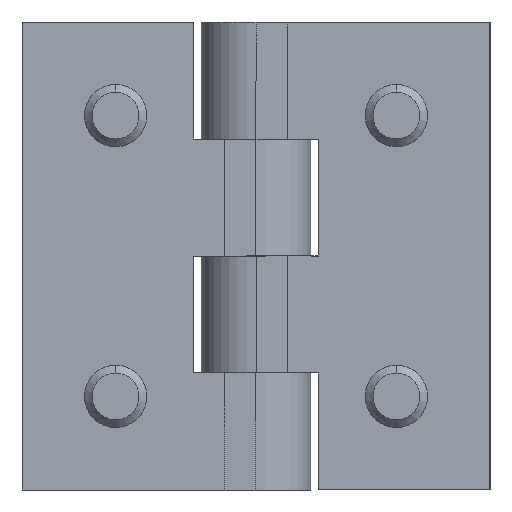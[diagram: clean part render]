
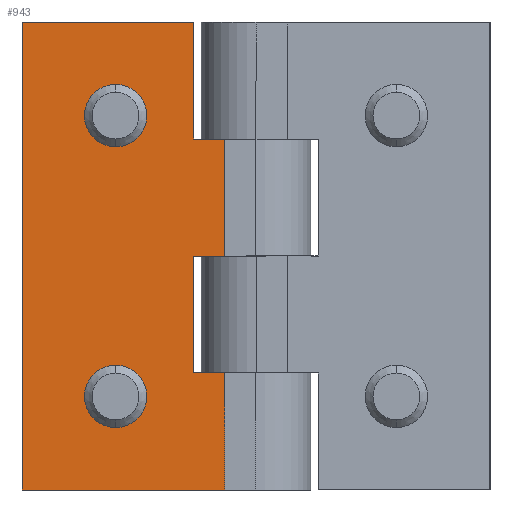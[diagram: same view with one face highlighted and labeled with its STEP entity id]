
A CAD part, front view. The second image highlights one B-rep face of the part: STEP entity #943.
In plain terms, the highlighted planar face has unit normal (0, -1, 0).
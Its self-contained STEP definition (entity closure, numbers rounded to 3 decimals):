
#2 = VERTEX_POINT ( 'NONE', #2869 ) ;
#23 = DIRECTION ( 'NONE',  ( -1., 0., 0. ) ) ;
#29 = AXIS2_PLACEMENT_3D ( 'NONE', #1249, #2211, #1468 ) ;
#76 = VERTEX_POINT ( 'NONE', #1429 ) ;
#95 = EDGE_CURVE ( 'NONE', #2, #2701, #1935, .T. ) ;
#100 = VERTEX_POINT ( 'NONE', #1412 ) ;
#129 = VECTOR ( 'NONE', #23, 1000. ) ;
#136 = FACE_BOUND ( 'NONE', #1048, .T. ) ;
#196 = EDGE_CURVE ( 'NONE', #1564, #100, #292, .T. ) ;
#203 = ORIENTED_EDGE ( 'NONE', *, *, #196, .F. ) ;
#208 = CARTESIAN_POINT ( 'NONE',  ( 7., -8., 0. ) ) ;
#238 = VERTEX_POINT ( 'NONE', #2917 ) ;
#292 = LINE ( 'NONE', #337, #1472 ) ;
#307 = ORIENTED_EDGE ( 'NONE', *, *, #2750, .F. ) ;
#337 = CARTESIAN_POINT ( 'NONE',  ( -8., -8., 30. ) ) ;
#343 = CIRCLE ( 'NONE', #1186, 4. ) ;
#351 = VERTEX_POINT ( 'NONE', #1406 ) ;
#361 = EDGE_LOOP ( 'NONE', ( #2294, #1477, #1380, #1223, #1999, #2818, #1645, #203, #927, #642 ) ) ;
#398 = CARTESIAN_POINT ( 'NONE',  ( 7., -8., -15. ) ) ;
#404 = CARTESIAN_POINT ( 'NONE',  ( -14., -8., 18. ) ) ;
#465 = CARTESIAN_POINT ( 'NONE',  ( -30., -8., 30. ) ) ;
#489 = AXIS2_PLACEMENT_3D ( 'NONE', #2450, #1649, #945 ) ;
#539 = CARTESIAN_POINT ( 'NONE',  ( -30., -8., -15. ) ) ;
#642 = ORIENTED_EDGE ( 'NONE', *, *, #2088, .F. ) ;
#659 = EDGE_CURVE ( 'NONE', #1741, #351, #1811, .T. ) ;
#703 = EDGE_CURVE ( 'NONE', #100, #1132, #1562, .T. ) ;
#717 = DIRECTION ( 'NONE',  ( 0., -1., 0. ) ) ;
#769 = VECTOR ( 'NONE', #1344, 1000. ) ;
#846 = VERTEX_POINT ( 'NONE', #982 ) ;
#852 = LINE ( 'NONE', #2307, #2283 ) ;
#891 = CARTESIAN_POINT ( 'NONE',  ( -18., -8., -18. ) ) ;
#927 = ORIENTED_EDGE ( 'NONE', *, *, #1287, .T. ) ;
#943 = ADVANCED_FACE ( 'NONE', ( #136, #2793, #2731 ), #1072, .T. ) ;
#945 = DIRECTION ( 'NONE',  ( 1., 0., 0. ) ) ;
#954 = CARTESIAN_POINT ( 'NONE',  ( -18., -8., -18. ) ) ;
#972 = CIRCLE ( 'NONE', #2737, 4. ) ;
#982 = CARTESIAN_POINT ( 'NONE',  ( -22., -8., 18. ) ) ;
#1011 = CARTESIAN_POINT ( 'NONE',  ( -30., -8., -30. ) ) ;
#1035 = VECTOR ( 'NONE', #1352, 1000. ) ;
#1048 = EDGE_LOOP ( 'NONE', ( #2537, #2882 ) ) ;
#1065 = VECTOR ( 'NONE', #2152, 1000. ) ;
#1072 = PLANE ( 'NONE',  #1321 ) ;
#1114 = EDGE_CURVE ( 'NONE', #238, #1408, #972, .T. ) ;
#1117 = DIRECTION ( 'NONE',  ( 1., 0., 0. ) ) ;
#1132 = VERTEX_POINT ( 'NONE', #2830 ) ;
#1186 = AXIS2_PLACEMENT_3D ( 'NONE', #954, #2098, #3060 ) ;
#1223 = ORIENTED_EDGE ( 'NONE', *, *, #2520, .T. ) ;
#1225 = VECTOR ( 'NONE', #2662, 1000. ) ;
#1249 = CARTESIAN_POINT ( 'NONE',  ( -18., -8., 18. ) ) ;
#1283 = CARTESIAN_POINT ( 'NONE',  ( 7., -8., -15. ) ) ;
#1287 = EDGE_CURVE ( 'NONE', #1564, #2692, #2694, .T. ) ;
#1321 = AXIS2_PLACEMENT_3D ( 'NONE', #398, #2242, #2977 ) ;
#1344 = DIRECTION ( 'NONE',  ( 0., 0., -1. ) ) ;
#1351 = EDGE_LOOP ( 'NONE', ( #307, #2816 ) ) ;
#1352 = DIRECTION ( 'NONE',  ( 1., 0., 0. ) ) ;
#1380 = ORIENTED_EDGE ( 'NONE', *, *, #659, .F. ) ;
#1406 = CARTESIAN_POINT ( 'NONE',  ( -8., -8., -15. ) ) ;
#1408 = VERTEX_POINT ( 'NONE', #1583 ) ;
#1412 = CARTESIAN_POINT ( 'NONE',  ( -8., -8., 30. ) ) ;
#1429 = CARTESIAN_POINT ( 'NONE',  ( -4., -8., 0. ) ) ;
#1468 = DIRECTION ( 'NONE',  ( 1., 0., 0. ) ) ;
#1472 = VECTOR ( 'NONE', #2724, 1000. ) ;
#1477 = ORIENTED_EDGE ( 'NONE', *, *, #1823, .T. ) ;
#1562 = LINE ( 'NONE', #3056, #1922 ) ;
#1564 = VERTEX_POINT ( 'NONE', #465 ) ;
#1583 = CARTESIAN_POINT ( 'NONE',  ( -22., -8., -18. ) ) ;
#1645 = ORIENTED_EDGE ( 'NONE', *, *, #703, .F. ) ;
#1649 = DIRECTION ( 'NONE',  ( 0., -1., 0. ) ) ;
#1741 = VERTEX_POINT ( 'NONE', #1926 ) ;
#1784 = DIRECTION ( 'NONE',  ( -1., 0., 0. ) ) ;
#1801 = EDGE_CURVE ( 'NONE', #76, #2721, #852, .T. ) ;
#1811 = LINE ( 'NONE', #2797, #769 ) ;
#1823 = EDGE_CURVE ( 'NONE', #2701, #351, #2273, .T. ) ;
#1829 = VECTOR ( 'NONE', #1784, 1000. ) ;
#1839 = LINE ( 'NONE', #3019, #2844 ) ;
#1922 = VECTOR ( 'NONE', #2569, 1000. ) ;
#1926 = CARTESIAN_POINT ( 'NONE',  ( -8., -8., 0. ) ) ;
#1935 = LINE ( 'NONE', #2373, #1065 ) ;
#1999 = ORIENTED_EDGE ( 'NONE', *, *, #1801, .T. ) ;
#2088 = EDGE_CURVE ( 'NONE', #2, #2692, #2617, .T. ) ;
#2098 = DIRECTION ( 'NONE',  ( 0., -1., 0. ) ) ;
#2152 = DIRECTION ( 'NONE',  ( 0., 0., 1. ) ) ;
#2171 = EDGE_CURVE ( 'NONE', #2772, #846, #2898, .T. ) ;
#2211 = DIRECTION ( 'NONE',  ( 0., -1., 0. ) ) ;
#2242 = DIRECTION ( 'NONE',  ( 0., -1., 0. ) ) ;
#2273 = LINE ( 'NONE', #1283, #1829 ) ;
#2283 = VECTOR ( 'NONE', #2515, 1000. ) ;
#2294 = ORIENTED_EDGE ( 'NONE', *, *, #95, .T. ) ;
#2295 = CIRCLE ( 'NONE', #489, 4. ) ;
#2307 = CARTESIAN_POINT ( 'NONE',  ( -4., -8., -30.001 ) ) ;
#2373 = CARTESIAN_POINT ( 'NONE',  ( -4., -8., -30. ) ) ;
#2450 = CARTESIAN_POINT ( 'NONE',  ( -18., -8., 18. ) ) ;
#2511 = EDGE_CURVE ( 'NONE', #1132, #2721, #1839, .T. ) ;
#2515 = DIRECTION ( 'NONE',  ( 0., 0., 1. ) ) ;
#2520 = EDGE_CURVE ( 'NONE', #1741, #76, #3053, .T. ) ;
#2537 = ORIENTED_EDGE ( 'NONE', *, *, #3052, .F. ) ;
#2569 = DIRECTION ( 'NONE',  ( 0., 0., -1. ) ) ;
#2614 = CARTESIAN_POINT ( 'NONE',  ( -4., -8., -15. ) ) ;
#2617 = LINE ( 'NONE', #3088, #129 ) ;
#2662 = DIRECTION ( 'NONE',  ( 0., 0., -1. ) ) ;
#2692 = VERTEX_POINT ( 'NONE', #1011 ) ;
#2694 = LINE ( 'NONE', #539, #1225 ) ;
#2701 = VERTEX_POINT ( 'NONE', #2614 ) ;
#2721 = VERTEX_POINT ( 'NONE', #3107 ) ;
#2724 = DIRECTION ( 'NONE',  ( 1., 0., 0. ) ) ;
#2731 = FACE_OUTER_BOUND ( 'NONE', #361, .T. ) ;
#2737 = AXIS2_PLACEMENT_3D ( 'NONE', #891, #717, #3049 ) ;
#2750 = EDGE_CURVE ( 'NONE', #846, #2772, #2295, .T. ) ;
#2772 = VERTEX_POINT ( 'NONE', #404 ) ;
#2793 = FACE_BOUND ( 'NONE', #1351, .T. ) ;
#2797 = CARTESIAN_POINT ( 'NONE',  ( -8., -8., 0. ) ) ;
#2816 = ORIENTED_EDGE ( 'NONE', *, *, #2171, .F. ) ;
#2818 = ORIENTED_EDGE ( 'NONE', *, *, #2511, .F. ) ;
#2830 = CARTESIAN_POINT ( 'NONE',  ( -8., -8., 15. ) ) ;
#2844 = VECTOR ( 'NONE', #1117, 1000. ) ;
#2869 = CARTESIAN_POINT ( 'NONE',  ( -4., -8., -30. ) ) ;
#2882 = ORIENTED_EDGE ( 'NONE', *, *, #1114, .F. ) ;
#2898 = CIRCLE ( 'NONE', #29, 4. ) ;
#2917 = CARTESIAN_POINT ( 'NONE',  ( -14., -8., -18. ) ) ;
#2977 = DIRECTION ( 'NONE',  ( 1., 0., 0. ) ) ;
#3019 = CARTESIAN_POINT ( 'NONE',  ( 7., -8., 15. ) ) ;
#3049 = DIRECTION ( 'NONE',  ( 1., 0., 0. ) ) ;
#3052 = EDGE_CURVE ( 'NONE', #1408, #238, #343, .T. ) ;
#3053 = LINE ( 'NONE', #208, #1035 ) ;
#3056 = CARTESIAN_POINT ( 'NONE',  ( -8., -8., 30. ) ) ;
#3060 = DIRECTION ( 'NONE',  ( 1., 0., 0. ) ) ;
#3088 = CARTESIAN_POINT ( 'NONE',  ( 7., -8., -30. ) ) ;
#3107 = CARTESIAN_POINT ( 'NONE',  ( -4., -8., 15. ) ) ;
